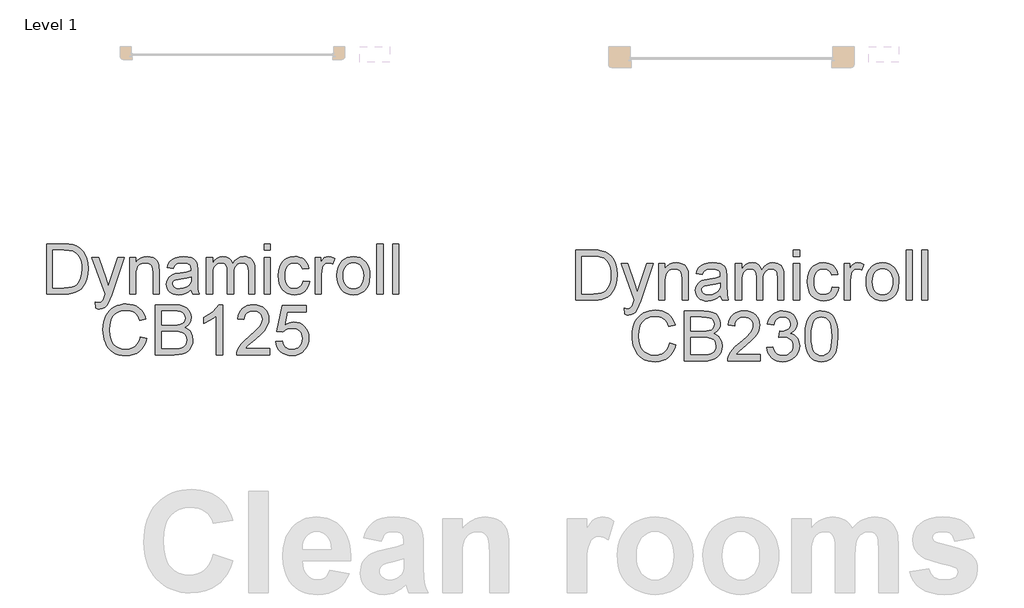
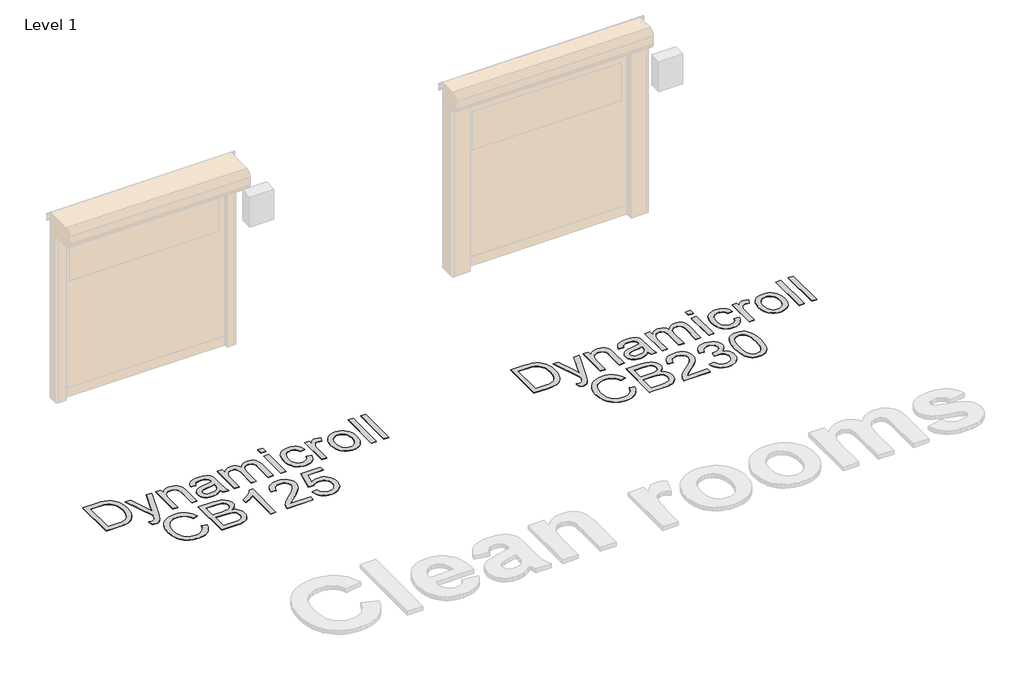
# One storey, part 15 of 17: 2 proxies.
"""IFC4 building model written with IfcOpenShell, lengths in millimetres."""

import ifcopenshell
import ifcopenshell.guid

model = None  # the IFC model being written
_history = None  # IfcOwnerHistory: only IFC2X3 demands one
_inside = {}  # id of a spatial element -> (the spatial element, [elements in it])
_under = {}  # id of a project, library or spatial element -> (it, [spatial elements below it])
_declared = {}  # id of a project -> (the project, [libraries it declares])
_typed = {}  # id of a type object -> (the type object, [elements of that type])
_made_of = {}  # id of a material, layer set ... -> (it, [elements and type objects made of it])


def new_model(schema):
    """Start an empty IFC model of exactly this schema.

    Asked for "IFC4X3", IfcOpenShell would pick the latest addendum, in which some entities
    have other attributes; the version numbers below select the first issue.
    IFC2X3 requires an IfcOwnerHistory on every rooted entity: one is made here for all.
    """
    global model, _history
    if schema == "IFC4X3":
        model = ifcopenshell.file(schema_version=(4, 3, 0, 0))
    else:
        model = ifcopenshell.file(schema=schema)
    _inside.clear()
    _under.clear()
    _declared.clear()
    _typed.clear()
    _made_of.clear()
    _history = None
    if model.schema == "IFC2X3":
        org = make("IfcOrganization", Name="unknown")
        user = make(
            "IfcPersonAndOrganization",
            ThePerson=make("IfcPerson", FamilyName="unknown"),
            TheOrganization=org,
        )
        app = make(
            "IfcApplication",
            ApplicationDeveloper=org,
            Version="unknown",
            ApplicationFullName="unknown",
            ApplicationIdentifier="unknown",
        )
        _history = make(
            "IfcOwnerHistory",
            OwningUser=user,
            OwningApplication=app,
            ChangeAction="ADDED",
            CreationDate=0,
        )
    return model


def make(cls, **values):
    """One entity of the class cls with the attributes given. An attribute that is None is left unset."""
    return model.create_entity(
        cls, **{name: value for name, value in values.items() if value is not None}
    )


def rooted(cls, **values):
    """An entity with a GlobalId (a new one), such as an element, a storey or a relation."""
    return make(cls, GlobalId=ifcopenshell.guid.new(), OwnerHistory=_history, **values)


def si_unit(unit_type, name, prefix=None):
    """IfcSIUnit, for example si_unit("LENGTHUNIT", "METRE", prefix="MILLI")."""
    return make("IfcSIUnit", UnitType=unit_type, Prefix=prefix, Name=name)


def assignment(units):
    """IfcUnitAssignment: the units of a project."""
    return None if units is None else make("IfcUnitAssignment", Units=units)


def point(xyz):
    """IfcCartesianPoint."""
    return None if xyz is None else make("IfcCartesianPoint", Coordinates=xyz)


def direction(xyz):
    """IfcDirection."""
    return None if xyz is None else make("IfcDirection", DirectionRatios=xyz)


def frame(location, z_axis=None, x_axis=None):
    """IfcAxis2Placement3D, a coordinate frame: its origin and axes. An axis left out is left unset."""
    return make(
        "IfcAxis2Placement3D",
        Location=point(location),
        Axis=direction(z_axis),
        RefDirection=direction(x_axis),
    )


def origin():
    """The frame at (0, 0, 0) with its axes left unset."""
    return frame((0.0, 0.0, 0.0))


def origin_with_axes():
    """The frame at (0, 0, 0) with the z axis (0, 0, 1) and the x axis (1, 0, 0) written out."""
    return frame((0.0, 0.0, 0.0), z_axis=(0.0, 0.0, 1.0), x_axis=(1.0, 0.0, 0.0))


def place(relative_to, where):
    """IfcLocalPlacement: puts the frame where relative to a parent placement (None: the world)."""
    return make(
        "IfcLocalPlacement", PlacementRelTo=relative_to, RelativePlacement=where
    )


def context(
    kind, dimensions, precision=None, world=None, true_north=None, identifier=None
):
    """IfcGeometricRepresentationContext, for example the 3D "Model" context."""
    return make(
        "IfcGeometricRepresentationContext",
        ContextIdentifier=identifier,
        ContextType=kind,
        CoordinateSpaceDimension=dimensions,
        Precision=precision,
        WorldCoordinateSystem=world,
        TrueNorth=true_north,
    )


def project(units=None, contexts=None):
    """IfcProject with its units and contexts."""
    return rooted(
        "IfcProject",
        Name="project",
        RepresentationContexts=contexts,
        UnitsInContext=assignment(units),
    )


def spatial(cls, under=None, at=None, **own):
    """A site, building, storey or space (cls), placed at a placement, below another one or the project."""
    s = rooted(cls, ObjectPlacement=at, **own)
    if under is not None:
        _under.setdefault(under.id(), (under, []))[1].append(s)
    return s


def polyline(points):
    """IfcPolyline through the points."""
    return make("IfcPolyline", Points=[point(p) for p in points])


def outline(outer, holes=None, kind="AREA"):
    """IfcArbitraryClosedProfileDef: a profile drawn as a closed curve; with holes, ...WithVoids."""
    if holes is None:
        return make("IfcArbitraryClosedProfileDef", ProfileType=kind, OuterCurve=outer)
    return make(
        "IfcArbitraryProfileDefWithVoids",
        ProfileType=kind,
        OuterCurve=outer,
        InnerCurves=holes,
    )


def extrude(swept, where, along, depth):
    """IfcExtrudedAreaSolid: the profile swept, set in the frame where, extruded along a direction by depth."""
    return make(
        "IfcExtrudedAreaSolid",
        SweptArea=swept,
        Position=where,
        ExtrudedDirection=direction(along),
        Depth=depth,
    )


def shape(context_of_items, identifier, shape_type, items):
    """IfcShapeRepresentation: the items that make up one representation, for example the "Body"."""
    return make(
        "IfcShapeRepresentation",
        ContextOfItems=context_of_items,
        RepresentationIdentifier=identifier,
        RepresentationType=shape_type,
        Items=items,
    )


def made_of(thing, what):
    """Note that an element or type object is made of a material, layer set ...; save() writes the relation."""
    if what is not None:
        _made_of.setdefault(what.id(), (what, []))[1].append(thing)
    return thing


def element(
    cls,
    number,
    at=None,
    inside=None,
    cuts=None,
    type_object=None,
    material=None,
    context=None,
    identifier="Body",
    shape_type=None,
    held_by="IfcProductDefinitionShape",
    body=None,
    shapes=None,
    **own,
):
    """One element of the class cls, such as IfcWall. Its Tag is "e" and its number.

    at: its placement. inside: the storey or other place that contains it. cuts: it is an
    opening in that element (IfcRelVoidsElement). A single representation is given by context,
    identifier, shape_type and body (its items); several are given by shapes. held_by: the class
    of the entity that holds the representations. save() writes the other relations.
    """
    e = rooted(cls, Tag="e%d" % number, ObjectPlacement=at, **own)
    if body is not None:
        shapes = [shape(context, identifier, shape_type, body)]
    if shapes is not None:
        e.Representation = make(held_by, Representations=shapes)
    if inside is not None:
        _inside.setdefault(inside.id(), (inside, []))[1].append(e)
    if cuts is not None:
        rooted(
            "IfcRelVoidsElement", RelatingBuildingElement=cuts, RelatedOpeningElement=e
        )
    if type_object is not None:
        _typed.setdefault(type_object.id(), (type_object, []))[1].append(e)
    return made_of(e, material)


def aggregate(whole, parts):
    """IfcRelAggregates: a whole, such as a stair, and the parts it consists of."""
    return rooted("IfcRelAggregates", RelatingObject=whole, RelatedObjects=parts)


def save(model, path):
    """Write the relations noted so far, then the file.

    IfcRelAggregates (storeys below a building ...), IfcRelContainedInSpatialStructure (elements
    in a storey), IfcRelDefinesByType, IfcRelAssociatesMaterial and IfcRelDeclares: one each for
    every whole, place, type object, material and project.
    """
    for whole, parts in _under.values():
        aggregate(whole, parts)
    for where, things in _inside.values():
        rooted(
            "IfcRelContainedInSpatialStructure",
            RelatedElements=things,
            RelatingStructure=where,
        )
    for kind, things in _typed.values():
        rooted("IfcRelDefinesByType", RelatedObjects=things, RelatingType=kind)
    for what, things in _made_of.values():
        rooted("IfcRelAssociatesMaterial", RelatedObjects=things, RelatingMaterial=what)
    for by, libraries in _declared.values():
        rooted("IfcRelDeclares", RelatingContext=by, RelatedDefinitions=libraries)
    model.write(path)


model = new_model("IFC4")

# Units and contexts
model_context = context("Model", 3, world=origin())
ifc_project = project(units=[si_unit("LENGTHUNIT", "METRE", prefix="MILLI")], contexts=[model_context])

# Site, building, storey
site = spatial("IfcSite", under=ifc_project)
building = spatial("IfcBuilding", under=site)
storey = spatial("IfcBuildingStorey", under=building, Name="Level 1", Elevation=0.0)

# Proxies
placement = place(None, origin())
element("IfcBuildingElementProxy", 1, Name="500mm", ObjectType="500mm", at=placement, inside=storey, context=model_context, shape_type="SweptSolid", body=[
    extrude(outline(polyline([(-367.2785937, 53537.1526628), (-367.2785937, 54039.4342136), (-194.006174, 54039.4342136), (-142.2267831, 54037.6254604), (-104.3655945, 54032.199201), (-64.3277707, 54018.250342), (-30.5439408, 53996.2693928), (-11.927579, 53978.3044887), (4.1902509, 53958.0096653), (17.809549, 53935.3849226), (28.9303151, 53910.4302606), (43.7375654, 53854.4508837), (48.6733155, 53790.9912395), (45.3317207, 53737.0811988), (35.3069364, 53689.6397498), (20.0398336, 53649.2493724), (0.9712835, 53616.4925464), (-20.9790089, 53590.6335079), (-44.8913386, 53570.9364927), (-72.3445325, 53556.3285118), (-104.9174175, 53545.736576), (-142.6713072, 53539.2986411), (-185.6675154, 53537.1526628), (-367.2785937, 53537.1526628)]), holes=[polyline([(-304.4933998, 53599.9378567), (-193.3930373, 53599.9378567), (-147.4384447, 53602.2064623), (-112.5816257, 53609.0122792), (-86.278063, 53619.9567686), (-65.9832396, 53634.6413915), (-44.170903, 53661.8186739), (-27.7848258, 53696.9973897), (-17.5301152, 53740.3308231), (-14.1118783, 53791.9722581), (-15.7865078, 53828.4232325), (-20.8103963, 53860.3983092), (-29.1835438, 53887.8974884), (-40.9059503, 53910.9207699), (-55.027254, 53929.98932), (-70.597093, 53945.6243048), (-87.6154674, 53957.8257243), (-106.0823771, 53966.5935785), (-142.1961263, 53974.1351594), (-195.1098199, 53976.6490197), (-304.4933998, 53976.6490197), (-304.4933998, 53599.9378567)])]), origin_with_axes(), (0.0, 0.0, 1.0), 5.0),
    extrude(outline(polyline([(127.1548078, 53395.8859767), (119.3066586, 53456.3412512), (151.1897649, 53450.8230213), (167.9590525, 53452.5551323), (180.9882065, 53457.7514655), (191.1356182, 53466.0441388), (199.2596789, 53477.0652703), (216.4275053, 53523.2957743), (221.3325986, 53538.5015635), (87.9140617, 53906.0156766), (154.1328208, 53906.0156766), (224.8887912, 53701.2280327), (249.5368849, 53619.3129751), (274.1849786, 53691.6631008), (346.9029863, 53906.0156766), (412.6312361, 53906.0156766), (284.2404198, 53528.3234949), (250.8857855, 53446.4084373), (233.8099296, 53420.2581588), (214.465468, 53402.1399706), (191.9940095, 53391.5633632), (165.5371627, 53388.0378274), (147.3576607, 53389.9998647), (127.1548078, 53395.8859767)])), origin_with_axes(), (0.0, 0.0, 1.0), 5.0),
    extrude(outline(polyline([(464.6252247, 53537.1526628), (464.6252247, 53906.0156766), (527.4104186, 53906.0156766), (527.4104186, 53854.5121973), (549.2227552, 53880.4785348), (575.419019, 53899.0259187), (605.9992098, 53910.1543491), (640.9633278, 53913.8638259), (671.9114006, 53910.8747847), (700.2536427, 53901.907661), (723.8900608, 53888.0814294), (740.7206621, 53870.5150641), (752.1403324, 53849.2545505), (759.5439575, 53824.3458737), (762.8548955, 53763.6453445), (762.8548955, 53537.1526628), (700.0697017, 53537.1526628), (700.0697017, 53755.1840586), (698.2609485, 53787.6496447), (692.8346891, 53810.7342399), (682.8252331, 53827.2736013), (667.2668904, 53840.1034858), (647.3246206, 53848.3348455), (624.1633833, 53851.078632), (605.0986653, 53849.5381262), (587.3905122, 53844.9166086), (571.038924, 53837.2140793), (556.0439005, 53826.4305384), (543.5167522, 53811.3397123), (534.5687891, 53790.715328), (529.2000112, 53764.5573853), (527.4104186, 53732.8658842), (527.4104186, 53537.1526628), (464.6252247, 53537.1526628)])), origin_with_axes(), (0.0, 0.0, 1.0), 5.0),
    extrude(outline(polyline([(1084.6290139, 53584.2415582), (1054.6313029, 53558.5204754), (1023.7445437, 53541.6898741), (991.2636293, 53532.4008537), (956.4834523, 53529.3045136), (928.5282528, 53531.1669162), (904.0142827, 53536.754124), (882.9415422, 53546.066137), (865.3100312, 53559.1029552), (851.3879969, 53575.0368441), (841.4436867, 53593.0400692), (835.4771006, 53613.1126306), (833.4882386, 53635.2545282), (836.4926082, 53661.2821794), (845.5057171, 53684.9185975), (859.4085908, 53705.1521073), (877.082255, 53720.9710331), (897.8522593, 53732.9271979), (921.0441534, 53741.5724248), (975.3680614, 53751.0147293), (1039.5634695, 53760.9475432), (1084.261132, 53772.5971397), (1084.6290139, 53786.5766555), (1080.3064005, 53814.5970008), (1067.3385602, 53832.9297869), (1054.2634209, 53840.8699067), (1038.3371962, 53846.5414208), (997.9314904, 53851.078632), (960.5301542, 53848.058934), (934.4105326, 53838.9998399), (916.5989127, 53822.2458807), (904.1215816, 53796.1415874), (841.3363878, 53803.9897366), (852.2348919, 53838.3253895), (868.4983418, 53865.3034025), (891.6442506, 53885.9354511), (923.1901317, 53901.2332107), (961.771756, 53910.7061721), (1006.0248943, 53913.8638259), (1048.4692795, 53911.0740541), (1082.1151536, 53902.7047387), (1107.4836829, 53890.1201088), (1125.0960334, 53874.6843934), (1136.7762868, 53855.6005149), (1144.3485245, 53832.0713956), (1147.4142078, 53777.134351), (1147.4142078, 53699.0207407), (1150.6025184, 53589.9437291), (1155.3236707, 53562.9810446), (1163.1105063, 53537.1526628), (1100.3253124, 53537.1526628), (1090.2698712, 53558.9803279), (1084.6290139, 53584.2415582)]), holes=[polyline([(1084.6290139, 53709.8119459), (1042.4452118, 53699.3579659), (983.3388379, 53690.5594548), (929.3214983, 53680.3813863), (915.2653404, 53673.4222852), (904.8573456, 53663.8266965), (898.4194107, 53652.3303841), (896.2734324, 53639.6691121), (900.9485994, 53620.9991009), (914.9741005, 53605.7013412), (938.0433673, 53595.4926159), (969.8498315, 53592.0897074), (1003.5723477, 53595.8451695), (1033.3707893, 53607.1115556), (1057.5283736, 53623.7122306), (1074.3283181, 53643.4705594), (1081.7779285, 53663.8266965), (1084.261132, 53692.0309828), (1084.6290139, 53709.8119459)])]), origin_with_axes(), (0.0, 0.0, 1.0), 5.0),
    extrude(outline(polyline([(1233.7438493, 53537.1526628), (1233.7438493, 53906.0156766), (1296.5290432, 53906.0156766), (1296.5290432, 53845.3151474), (1315.4136523, 53873.197537), (1339.6938639, 53895.0405305), (1368.5419437, 53909.158002), (1401.1301571, 53913.8638259), (1436.0482898, 53909.0660315), (1464.0379783, 53894.6726485), (1484.9459384, 53871.6340385), (1498.6188859, 53840.9005635), (1521.5042116, 53872.8219908), (1547.6085049, 53895.6230103), (1576.9317656, 53909.303622), (1609.4739937, 53913.8638259), (1634.6087646, 53911.9669343), (1656.670188, 53906.2762597), (1675.6582639, 53896.791802), (1691.5729923, 53883.5135613), (1704.1537901, 53866.2882533), (1713.1400743, 53844.9625939), (1718.5318448, 53819.536583), (1720.3291016, 53790.0102208), (1720.3291016, 53537.1526628), (1657.5439078, 53537.1526628), (1657.5439078, 53763.0322079), (1656.0877082, 53794.3481627), (1651.7191095, 53815.4553922), (1643.5337351, 53829.9100889), (1630.6272085, 53841.2684455), (1614.0265334, 53848.6260854), (1594.7587139, 53851.078632), (1576.9662545, 53849.5074693), (1560.7449578, 53844.7939813), (1546.0948238, 53836.9381678), (1533.0158524, 53825.940029), (1522.2591361, 53811.4776681), (1514.5757674, 53793.2291883), (1509.9657461, 53771.1945896), (1508.4290724, 53745.3738721), (1508.4290724, 53537.1526628), (1445.6438785, 53537.1526628), (1445.6438785, 53770.0219658), (1442.0110438, 53805.5225783), (1431.1125397, 53830.8451223), (1422.6857428, 53839.6972828), (1411.9366907, 53846.0202546), (1383.4718214, 53851.078632), (1359.2835802, 53847.7063804), (1336.9960626, 53837.5896255), (1318.6019629, 53820.9736221), (1306.093975, 53798.1036247), (1298.9202761, 53766.3738026), (1296.5290432, 53723.178325), (1296.5290432, 53537.1526628), (1233.7438493, 53537.1526628)])), origin_with_axes(), (0.0, 0.0, 1.0), 5.0),
    extrude(outline(polyline([(1814.5068924, 53976.6490197), (1814.5068924, 54039.4342136), (1877.2920862, 54039.4342136), (1877.2920862, 53976.6490197), (1814.5068924, 53976.6490197)])), origin_with_axes(), (0.0, 0.0, 1.0), 5.0),
    extrude(outline(polyline([(1814.5068924, 53537.1526628), (1814.5068924, 53906.0156766), (1877.2920862, 53906.0156766), (1877.2920862, 53537.1526628), (1814.5068924, 53537.1526628)])), origin_with_axes(), (0.0, 0.0, 1.0), 5.0),
    extrude(outline(polyline([(2206.9143539, 53670.5711997), (2269.6995477, 53662.7230505), (2262.8707382, 53633.0970536), (2252.1944961, 53606.8816293), (2237.6708215, 53584.0767777), (2219.2997144, 53564.6824988), (2197.8552598, 53549.2046303), (2174.1115427, 53538.1490099), (2148.0685631, 53531.5156377), (2119.726321, 53529.3045136), (2084.5131163, 53532.3893574), (2052.9404105, 53541.6438888), (2025.0082036, 53557.0681079), (2000.7164956, 53578.6620146), (1981.0539694, 53606.0194059), (1967.0093078, 53638.7340787), (1958.5825108, 53676.8060331), (1955.7735785, 53720.2352691), (1960.5713729, 53776.1073471), (1974.9647559, 53824.5298147), (1985.8172748, 53845.4799279), (1999.183654, 53863.6326051), (2015.0638934, 53878.9878463), (2033.4579932, 53891.5456515), (2074.4615072, 53908.2842823), (2118.8679297, 53913.8638259), (2146.7234945, 53911.9477738), (2171.9195791, 53906.1996176), (2194.4561834, 53896.6193574), (2214.3333075, 53883.2069929), (2231.2137261, 53866.2690927), (2244.7602142, 53846.1122251), (2254.9727716, 53822.73639), (2261.8513985, 53796.1415874), (2199.0662047, 53788.2934382), (2187.6771912, 53815.6853184), (2169.9422134, 53835.3210199), (2146.8422898, 53847.139229), (2119.358439, 53851.078632), (2098.0251154, 53849.1395873), (2078.7841207, 53843.3224533), (2061.6354547, 53833.6272299), (2046.5791177, 53820.0539171), (2034.3202166, 53802.2882824), (2025.5638587, 53780.0160933), (2020.310044, 53753.2373497), (2018.5587724, 53721.9520517), (2020.2717229, 53690.1954049), (2025.4105745, 53663.1062609), (2033.9753272, 53640.6846197), (2045.965981, 53622.9304814), (2060.723414, 53609.4376428), (2077.5885042, 53599.7999009), (2096.5612517, 53594.0172558), (2117.6416564, 53592.0897074), (2150.1532277, 53596.9028302), (2176.809344, 53611.3421985), (2187.5890528, 53622.2636952), (2196.1997908, 53635.7756944), (2206.9143539, 53670.5711997)])), origin_with_axes(), (0.0, 0.0, 1.0), 5.0),
    extrude(outline(polyline([(2324.6365924, 53537.1526628), (2324.6365924, 53906.0156766), (2379.573637, 53906.0156766), (2379.573637, 53851.446514), (2399.8684604, 53883.0843656), (2418.5691285, 53901.72372), (2437.3311102, 53910.8287994), (2457.8098746, 53913.8638259), (2489.0798442, 53909.0200463), (2520.8403231, 53894.4887075), (2499.8710494, 53838.2027622), (2477.7981297, 53847.8596646), (2455.72521, 53851.078632), (2436.9785566, 53847.9822919), (2420.2245974, 53838.6932715), (2406.6896057, 53823.9166781), (2397.5998547, 53804.3576186), (2389.9663033, 53769.2862018), (2387.4217862, 53731.0264743), (2387.4217862, 53537.1526628), (2324.6365924, 53537.1526628)])), origin_with_axes(), (0.0, 0.0, 1.0), 5.0),
    extrude(outline(polyline([(2544.3847708, 53721.5841697), (2547.7800151, 53769.3551796), (2557.9657478, 53810.5196421), (2574.941969, 53845.077557), (2598.7086788, 53873.0289244), (2622.6363369, 53890.8941938), (2649.0471984, 53903.6551005), (2677.9412635, 53911.3116445), (2709.318532, 53913.8638259), (2743.9569211, 53910.7559894), (2775.276708, 53901.4324801), (2803.2778928, 53885.8932979), (2827.9604754, 53864.1384429), (2848.1058468, 53836.9036789), (2862.4953977, 53804.9247701), (2871.1291283, 53768.2017163), (2874.0070385, 53726.7345177), (2868.9180042, 53663.3055303), (2862.5567114, 53637.270215), (2853.6509014, 53615.0210185), (2842.3117053, 53595.8030163), (2828.6502542, 53578.861284), (2812.6665479, 53564.1958216), (2794.3605865, 53551.806629), (2753.632984, 53534.9300424), (2709.318532, 53529.3045136), (2674.1743051, 53532.4008537), (2642.5632783, 53541.6898741), (2614.4854514, 53557.1715747), (2589.9408245, 53578.8459556), (2570.010051, 53606.3451347), (2555.7737842, 53639.3012301), (2547.2320242, 53677.7142418), (2544.3847708, 53721.5841697)]), holes=[polyline([(2607.1699647, 53721.7067971), (2608.986382, 53691.2530656), (2614.4356341, 53664.8843572), (2623.5177208, 53642.6006718), (2636.2326423, 53624.4020093), (2651.6990145, 53610.2653773), (2669.0354535, 53600.1677829), (2688.2419593, 53594.1092263), (2709.318532, 53592.0897074), (2730.2878057, 53594.1207226), (2749.4176695, 53600.2137682), (2766.7081232, 53610.3688441), (2782.159167, 53624.5859503), (2794.8740885, 53642.9647217), (2803.9561752, 53665.6047928), (2809.4054273, 53692.5061637), (2811.2218446, 53723.6688344), (2809.393931, 53753.1568755), (2803.91019, 53778.8358052), (2794.7706217, 53800.7056234), (2781.975226, 53818.7663301), (2766.4667007, 53832.9029622), (2749.1877432, 53843.0005566), (2730.1383536, 53849.0591132), (2709.318532, 53851.078632), (2688.2419593, 53849.0667774), (2669.0354535, 53843.0312134), (2651.6990145, 53832.9719401), (2636.2326423, 53818.8889575), (2623.5177208, 53800.7439445), (2614.4356341, 53778.4985801), (2608.986382, 53752.1528643), (2607.1699647, 53721.7067971)])]), origin_with_axes(), (0.0, 0.0, 1.0), 5.0),
    extrude(outline(polyline([(2944.6403816, 53537.1526628), (2944.6403816, 54039.4342136), (3007.4255754, 54039.4342136), (3007.4255754, 53537.1526628), (2944.6403816, 53537.1526628)])), origin_with_axes(), (0.0, 0.0, 1.0), 5.0),
    extrude(outline(polyline([(3101.6033662, 53537.1526628), (3101.6033662, 54039.4342136), (3164.38856, 54039.4342136), (3164.38856, 53537.1526628), (3101.6033662, 53537.1526628)])), origin_with_axes(), (0.0, 0.0, 1.0), 5.0),
    extrude(outline(polyline([(574.499314, 53105.8239686), (637.2845078, 53089.6371608), (624.8608263, 53050.591852), (608.3138007, 53016.474629), (587.6434311, 52987.2854919), (562.8497175, 52963.0244408), (534.492147, 52943.9520586), (503.1302069, 52930.3289285), (468.7638972, 52922.1550504), (431.3932178, 52919.4304244), (393.1066656, 52921.4920964), (358.5679112, 52927.6771124), (327.7769546, 52937.9854725), (300.7337959, 52952.4171766), (277.0667209, 52970.7576269), (256.4040155, 52992.7922256), (238.7456797, 53018.5209726), (224.0917136, 53047.943868), (212.5839049, 53079.7886532), (204.3640416, 53112.7830697), (199.4321236, 53146.9271173), (197.7881509, 53182.2207962), (199.6467214, 53220.0896491), (205.2224329, 53255.4599701), (214.5152854, 53288.3317592), (227.5252789, 53318.7050165), (243.9611734, 53346.0777362), (263.5317291, 53369.9479127), (286.236946, 53390.3155461), (312.0768241, 53407.1806363), (340.1738115, 53420.4052276), (369.6503563, 53429.8513642), (400.5064587, 53435.5190462), (432.7421185, 53437.4082736), (468.6527662, 53434.9633911), (501.5820368, 53427.6287439), (531.5299305, 53415.4043317), (558.4964472, 53398.2901547), (582.0370628, 53376.7384012), (601.7072532, 53351.2012594), (617.5070185, 53321.6787293), (629.4363586, 53288.1708109), (566.6511647, 53273.2102764), (556.7643361, 53297.9005232), (544.8848134, 53318.9962564), (531.0125965, 53336.4974759), (515.1476854, 53350.4041817), (497.1981097, 53360.9999496), (477.0718989, 53368.5683552), (454.769053, 53373.1093986), (430.2895719, 53374.6230797), (402.1236066, 53372.9446181), (376.3642027, 53367.9092333), (353.0113602, 53359.5169253), (332.0650791, 53347.7676941), (313.7897746, 53333.19037), (298.4498618, 53316.3137835), (286.0453408, 53297.1379345), (276.5762115, 53275.662823), (264.5740615, 53229.7082305), (260.5733448, 53182.3434236), (265.3098254, 53124.3406957), (279.5192675, 53074.186117), (290.3104727, 53052.5308966), (303.7381655, 53033.7957396), (319.802346, 53017.9806459), (338.5030141, 53005.0856156), (380.1809784, 52987.9331175), (425.1392239, 52982.2156182), (452.4353016, 52984.1623271), (477.5470798, 52990.0024538), (500.4745588, 52999.7359982), (521.2177383, 53013.3629605), (539.2861092, 53030.8220268), (554.1891622, 53052.0518836), (565.9268971, 53077.0525309), (574.499314, 53105.8239686)])), origin_with_axes(), (0.0, 0.0, 1.0), 5.0),
    extrude(outline(polyline([(723.6141493, 52927.2785736), (723.6141493, 53429.5601243), (915.2806688, 53429.5601243), (967.9950931, 53425.865976), (1009.1518913, 53414.7835309), (1040.6977724, 53396.0368775), (1064.5794452, 53369.3501045), (1079.6166218, 53337.9575075), (1084.6290139, 53305.0933826), (1080.4136994, 53274.8504169), (1067.7677558, 53246.4162044), (1046.5992127, 53221.5381845), (1016.8160995, 53201.9637967), (1035.7658544, 53193.8857212), (1052.3933541, 53183.3857559), (1066.6985988, 53170.4639008), (1078.6815884, 53155.1201559), (1094.9143814, 53119.0370636), (1100.3253124, 53077.0065456), (1096.631164, 53041.981114), (1085.5487189, 53009.5001995), (1069.0093576, 52981.878393), (1048.9444604, 52961.4302855), (1024.3730088, 52946.6230352), (994.3139841, 52935.9238005), (957.7863677, 52929.4398803), (913.8091409, 52927.2785736), (723.6141493, 52927.2785736)]), holes=[polyline([(786.3993432, 53225.5082443), (901.0558984, 53225.5082443), (941.1550358, 53226.857145), (968.0104215, 53230.9038469), (991.4475703, 53240.2081957), (1008.2934999, 53254.1417263), (1018.4562401, 53272.4898408), (1021.8438201, 53295.0379414), (1018.6861663, 53316.9269201), (1009.2132049, 53335.9954702), (993.8541316, 53350.8793626), (973.0381421, 53360.2143682), (941.0937222, 53365.1347899), (892.3493578, 53366.7749305), (786.3993432, 53366.7749305), (786.3993432, 53225.5082443)]), polyline([(786.3993432, 52990.0637674), (915.1580415, 52990.0637674), (961.7564276, 52992.5163141), (983.3848232, 52997.9579019), (1001.1811147, 53006.1892616), (1015.6511399, 53017.9768138), (1027.3007364, 53034.0869795), (1034.980273, 53053.7993231), (1037.5401186, 53076.393409), (1034.5357489, 53102.635658), (1025.5226401, 53125.199087), (1009.7803563, 53142.8420943), (986.5884622, 53154.3230783), (953.7396657, 53160.6230574), (909.0266749, 53162.7230505), (786.3993432, 53162.7230505), (786.3993432, 52990.0637674)])]), origin_with_axes(), (0.0, 0.0, 1.0), 5.0),
    extrude(outline(polyline([(1398.5549832, 52927.2785736), (1335.7697893, 52927.2785736), (1335.7697893, 53318.7050165), (1309.5581972, 53297.5058165), (1276.2955334, 53276.3372733), (1210.1994016, 53244.6381081), (1210.1994016, 53303.9897366), (1259.5109174, 53330.8144655), (1302.2312141, 53362.7282285), (1335.9077451, 53396.6653426), (1358.0879637, 53429.5601243), (1398.5549832, 53429.5601243), (1398.5549832, 52927.2785736)])), origin_with_axes(), (0.0, 0.0, 1.0), 5.0),
    extrude(outline(polyline([(1869.443937, 52990.0637674), (1869.443937, 52927.2785736), (1539.8216693, 52927.2785736), (1541.2012268, 52949.3821501), (1546.5661726, 52970.5660217), (1562.0478732, 53004.3958368), (1584.7032727, 53037.2139765), (1617.4754271, 53071.5649578), (1663.3073924, 53109.9932979), (1731.0589931, 53170.1726609), (1771.7099536, 53214.5944118), (1792.0354338, 53250.6468473), (1797.1168039, 53268.3051831), (1798.8105939, 53285.7182642), (1797.2126065, 53302.1005093), (1792.4186443, 53317.1568464), (1784.4287072, 53330.8872754), (1773.2427953, 53343.2917965), (1759.4817094, 53353.5656676), (1743.7662504, 53360.904147), (1726.0964183, 53365.3072346), (1706.4722131, 53366.7749305), (1667.3081091, 53361.0421027), (1651.002506, 53353.876068), (1636.8812024, 53343.8436195), (1625.4577, 53331.2819822), (1617.2455009, 53316.5283813), (1612.244605, 53299.5828169), (1610.4550124, 53280.445289), (1547.6698185, 53288.2934382), (1553.0692532, 53320.7053748), (1562.8909361, 53349.0246242), (1577.1348671, 53373.2511864), (1595.8010462, 53393.3850615), (1618.4602779, 53409.2116515), (1644.6833664, 53420.5163586), (1674.4703117, 53427.2991829), (1707.8211138, 53429.5601243), (1741.47082, 53427.046264), (1771.4187137, 53419.5046831), (1797.6647948, 53406.9353816), (1820.2090633, 53389.3383595), (1838.3157553, 53368.0165322), (1851.2491066, 53344.2728151), (1859.0091175, 53318.1072082), (1861.5957878, 53289.5197115), (1858.806016, 53259.4913436), (1850.4367006, 53229.984142), (1835.583465, 53199.9711025), (1813.3419327, 53168.4252214), (1777.8873054, 53130.7633022), (1723.3947849, 53082.4021482), (1651.1672865, 53022.0081873), (1622.8403729, 52990.0637674), (1869.443937, 52990.0637674)])), origin_with_axes(), (0.0, 0.0, 1.0), 5.0),
    extrude(outline(polyline([(1932.2291308, 53060.6971105), (1995.0143247, 53068.5452597), (2006.5412939, 53030.8526836), (2015.5237459, 53016.0186086), (2026.6521763, 53003.8593423), (2039.9035923, 52994.390213), (2055.2550014, 52987.6265492), (2092.2577987, 52982.2156182), (2116.1701284, 52984.0971813), (2137.2620295, 52989.7418707), (2155.5335019, 52999.1496863), (2170.9845457, 53012.3206281), (2183.2702715, 53028.6032385), (2192.0457899, 53047.3460598), (2197.311101, 53068.5490918), (2199.0662047, 53092.2123348), (2197.422232, 53114.5764944), (2192.490314, 53134.4574505), (2184.2704507, 53151.8552032), (2172.762642, 53166.7697524), (2157.928567, 53178.7335815), (2139.7299045, 53187.2791737), (2118.1666547, 53192.406529), (2093.2388174, 53194.1156474), (2062.7812539, 53191.3871893), (2038.1178318, 53183.2018149), (2018.4208166, 53170.6631702), (2002.8624739, 53154.8749013), (1940.0772801, 53162.7230505), (1995.0143247, 53421.7119751), (2238.3069508, 53421.7119751), (2238.3069508, 53358.9267813), (2045.78204, 53358.9267813), (2018.9266544, 53220.6031511), (2041.0838804, 53236.4833905), (2063.7776009, 53247.8264187), (2087.0078161, 53254.6322356), (2110.7745258, 53256.9008413), (2141.3508846, 53254.0880768), (2169.4363756, 53245.6497836), (2195.030999, 53231.5859615), (2218.1347548, 53211.8966105), (2237.2607864, 53187.7850114), (2250.9222376, 53160.4544449), (2259.1191083, 53129.9049108), (2261.8513985, 53096.1364094), (2259.3911877, 53063.6095096), (2252.0105551, 53033.3512155), (2239.7095009, 53005.3615271), (2222.488025, 52979.6404442), (2196.3990602, 52953.2985605), (2165.9568251, 52934.4829293), (2131.1613197, 52923.1935506), (2092.0125441, 52919.4304244), (2059.6121038, 52921.8484821), (2030.3463246, 52929.1026551), (2004.2152067, 52941.1929436), (1981.2187499, 52958.1193475), (1962.085054, 52979.0388039), (1947.5422189, 53003.1082498), (1937.5902445, 53030.3276854), (1932.2291308, 53060.6971105)])), origin_with_axes(), (0.0, 0.0, 1.0), 5.0),
])
element("IfcBuildingElementProxy", 2, Name="500mm", ObjectType="500mm", at=placement, inside=storey, context=model_context, shape_type="SweptSolid", body=[
    extrude(outline(polyline([(4936.8681152, 53476.3287441), (4936.8681152, 53978.6102948), (5110.1405349, 53978.6102948), (5161.9199257, 53976.8015417), (5199.7811144, 53971.3752822), (5239.8189382, 53957.4264233), (5273.6027681, 53935.445474), (5292.2191299, 53917.48057), (5308.3369598, 53897.1857465), (5321.9562578, 53874.5610038), (5333.077024, 53849.6063418), (5347.8842743, 53793.6269649), (5352.8200244, 53730.1673207), (5349.4784296, 53676.25728), (5339.4536452, 53628.8158311), (5324.1865424, 53588.4254537), (5305.1179924, 53555.6686277), (5283.1677, 53529.8095891), (5259.2553703, 53510.112574), (5231.8021764, 53495.5045931), (5199.2292914, 53484.9126573), (5161.4754017, 53478.4747224), (5118.4791935, 53476.3287441), (4936.8681152, 53476.3287441)]), holes=[polyline([(4999.653309, 53539.1139379), (5110.7536716, 53539.1139379), (5156.7082641, 53541.3825435), (5191.5650832, 53548.1883605), (5217.8686458, 53559.1328498), (5238.1634692, 53573.8174728), (5259.9758059, 53600.9947552), (5276.3618831, 53636.173471), (5286.6165937, 53679.5069043), (5290.0348306, 53731.1483394), (5288.3602011, 53767.5993137), (5283.3363126, 53799.5743905), (5274.9631651, 53827.0735696), (5263.2407586, 53850.0968512), (5249.1194549, 53869.1654013), (5233.5496159, 53884.800386), (5216.5312415, 53897.0018056), (5198.0643318, 53905.7696598), (5161.9505826, 53913.3112407), (5109.0368889, 53915.825101), (4999.653309, 53915.825101), (4999.653309, 53539.1139379)])]), origin_with_axes(), (0.0, 0.0, 1.0), 5.0),
    extrude(outline(polyline([(5431.3015167, 53335.0620579), (5423.4533675, 53395.5173325), (5455.3364737, 53389.9991025), (5472.1057613, 53391.7312136), (5485.1349153, 53396.9275468), (5495.282327, 53405.2202201), (5503.4063878, 53416.2413515), (5520.5742142, 53462.4718556), (5525.4793075, 53477.6776447), (5392.0607706, 53845.1917579), (5458.2795297, 53845.1917579), (5529.0355001, 53640.4041139), (5553.6835938, 53558.4890563), (5578.3316874, 53630.839182), (5651.0496952, 53845.1917579), (5716.777945, 53845.1917579), (5588.3871286, 53467.4995762), (5555.0324944, 53385.5845186), (5537.9566385, 53359.4342401), (5518.6121769, 53341.3160518), (5496.1407184, 53330.7394445), (5469.6838715, 53327.2139087), (5451.5043696, 53329.175946), (5431.3015167, 53335.0620579)])), origin_with_axes(), (0.0, 0.0, 1.0), 5.0),
    extrude(outline(polyline([(5768.7719336, 53476.3287441), (5768.7719336, 53845.1917579), (5831.5571275, 53845.1917579), (5831.5571275, 53793.6882786), (5853.3694641, 53819.6546161), (5879.5657278, 53838.202), (5910.1459187, 53849.3304303), (5945.1100366, 53853.0399071), (5976.0581095, 53850.0508659), (6004.4003515, 53841.0837423), (6028.0367697, 53827.2575106), (6044.867371, 53809.6911454), (6056.2870413, 53788.4306317), (6063.6906664, 53763.521955), (6067.0016044, 53702.8214258), (6067.0016044, 53476.3287441), (6004.2164105, 53476.3287441), (6004.2164105, 53694.3601399), (6002.4076574, 53726.8257259), (5996.981398, 53749.9103211), (5986.971942, 53766.4496825), (5971.4135993, 53779.2795671), (5951.4713295, 53787.5109267), (5928.3100922, 53790.2547133), (5909.2453742, 53788.7142074), (5891.5372211, 53784.0926899), (5875.1856328, 53776.3901606), (5860.1906094, 53765.6066196), (5847.6634611, 53750.5157936), (5838.7154979, 53729.8914092), (5833.3467201, 53703.7334665), (5831.5571275, 53672.0419655), (5831.5571275, 53476.3287441), (5768.7719336, 53476.3287441)])), origin_with_axes(), (0.0, 0.0, 1.0), 5.0),
    extrude(outline(polyline([(6388.7757228, 53523.4176394), (6358.7780118, 53497.6965566), (6327.8912526, 53480.8659553), (6295.4103381, 53471.576935), (6260.6301612, 53468.4805948), (6232.6749616, 53470.3429974), (6208.1609916, 53475.9302052), (6187.0882511, 53485.2422182), (6169.45674, 53498.2790364), (6155.5347058, 53514.2129254), (6145.5903956, 53532.2161505), (6139.6238095, 53552.2887119), (6137.6349474, 53574.4306094), (6140.6393171, 53600.4582606), (6149.652426, 53624.0946788), (6163.5552997, 53644.3281885), (6181.2289639, 53660.1471143), (6201.9989682, 53672.1032792), (6225.1908623, 53680.7485061), (6279.5147703, 53690.1908106), (6343.7101784, 53700.1236245), (6388.4078408, 53711.773221), (6388.7757228, 53725.7527368), (6384.4531094, 53753.7730821), (6371.485269, 53772.1058682), (6358.4101298, 53780.0459879), (6342.4839051, 53785.717502), (6302.0781993, 53790.2547133), (6264.6768631, 53787.2350152), (6238.5572415, 53778.1759211), (6220.7456215, 53761.4219619), (6208.2682905, 53735.3176687), (6145.4830967, 53743.1658179), (6156.3816008, 53777.5014708), (6172.6450507, 53804.4794838), (6195.7909595, 53825.1115323), (6227.3368406, 53840.409292), (6265.9184648, 53849.8822533), (6310.1716032, 53853.0399071), (6352.6159884, 53850.2501353), (6386.2618625, 53841.8808199), (6411.6303918, 53829.29619), (6429.2427423, 53813.8604746), (6440.9229956, 53794.7765961), (6448.4952334, 53771.2474769), (6451.5609167, 53716.3104323), (6451.5609167, 53638.1968219), (6454.7492273, 53529.1198104), (6459.4703796, 53502.1571258), (6467.2572151, 53476.3287441), (6404.4720213, 53476.3287441), (6394.4165801, 53498.1564091), (6388.7757228, 53523.4176394)]), holes=[polyline([(6388.7757228, 53648.9880271), (6346.5919207, 53638.5340471), (6287.4855468, 53629.7355361), (6233.4682072, 53619.5574675), (6219.4120493, 53612.5983664), (6209.0040545, 53603.0027777), (6202.5661196, 53591.5064654), (6200.4201413, 53578.8451934), (6205.0953083, 53560.1751821), (6219.1208094, 53544.8774225), (6242.1900762, 53534.6686971), (6273.9965403, 53531.2657887), (6307.7190566, 53535.0212507), (6337.5174982, 53546.2876368), (6361.6750825, 53562.8883118), (6378.475027, 53582.6466407), (6385.9246374, 53603.0027777), (6388.4078408, 53631.207064), (6388.7757228, 53648.9880271)])]), origin_with_axes(), (0.0, 0.0, 1.0), 5.0),
    extrude(outline(polyline([(6537.8905582, 53476.3287441), (6537.8905582, 53845.1917579), (6600.675752, 53845.1917579), (6600.675752, 53784.4912287), (6619.5603611, 53812.3736182), (6643.8405728, 53834.2166117), (6672.6886526, 53848.3340833), (6705.276866, 53853.0399071), (6740.1949987, 53848.2421128), (6768.1846872, 53833.8487297), (6789.0926472, 53810.8101198), (6802.7655947, 53780.0766448), (6825.6509205, 53811.998072), (6851.7552138, 53834.7990915), (6881.0784745, 53848.4797032), (6913.6207026, 53853.0399071), (6938.7554735, 53851.1430156), (6960.8168969, 53845.452341), (6979.8049728, 53835.9678833), (6995.7197012, 53822.6896425), (7008.300499, 53805.4643345), (7017.2867832, 53784.1386751), (7022.6785537, 53758.7126643), (7024.4758105, 53729.1863021), (7024.4758105, 53476.3287441), (6961.6906166, 53476.3287441), (6961.6906166, 53702.2082891), (6960.2344171, 53733.5242439), (6955.8658184, 53754.6314734), (6947.680444, 53769.0861701), (6934.7739173, 53780.4445267), (6918.1732423, 53787.8021667), (6898.9054228, 53790.2547133), (6881.1129634, 53788.6835506), (6864.8916667, 53783.9700625), (6850.2415326, 53776.1142491), (6837.1625613, 53765.1161103), (6826.405845, 53750.6537493), (6818.7224763, 53732.4052695), (6814.112455, 53710.3706709), (6812.5757813, 53684.5499533), (6812.5757813, 53476.3287441), (6749.7905874, 53476.3287441), (6749.7905874, 53709.198047), (6746.1577527, 53744.6986595), (6735.2592486, 53770.0212036), (6726.8324517, 53778.8733641), (6716.0833996, 53785.1963359), (6687.6185302, 53790.2547133), (6663.4302891, 53786.8824617), (6641.1427715, 53776.7657068), (6622.7486718, 53760.1497033), (6610.2406839, 53737.279706), (6603.066985, 53705.5498839), (6600.675752, 53662.3544063), (6600.675752, 53476.3287441), (6537.8905582, 53476.3287441)])), origin_with_axes(), (0.0, 0.0, 1.0), 5.0),
    extrude(outline(polyline([(7118.6536013, 53915.825101), (7118.6536013, 53978.6102948), (7181.4387951, 53978.6102948), (7181.4387951, 53915.825101), (7118.6536013, 53915.825101)])), origin_with_axes(), (0.0, 0.0, 1.0), 5.0),
    extrude(outline(polyline([(7118.6536013, 53476.3287441), (7118.6536013, 53845.1917579), (7181.4387951, 53845.1917579), (7181.4387951, 53476.3287441), (7118.6536013, 53476.3287441)])), origin_with_axes(), (0.0, 0.0, 1.0), 5.0),
    extrude(outline(polyline([(7511.0610628, 53609.747281), (7573.8462566, 53601.8991318), (7567.0174471, 53572.2731348), (7556.341205, 53546.0577106), (7541.8175304, 53523.252859), (7523.4464233, 53503.85858), (7502.0019686, 53488.3807115), (7478.2582515, 53477.3250911), (7452.215272, 53470.6917189), (7423.8730299, 53468.4805948), (7388.6598252, 53471.5654387), (7357.0871194, 53480.8199701), (7329.1549125, 53496.2441892), (7304.8632045, 53517.8380959), (7285.2006783, 53545.1954871), (7271.1560167, 53577.91016), (7262.7292197, 53615.9821144), (7259.9202874, 53659.4113503), (7264.7180818, 53715.2834284), (7279.1114648, 53763.705896), (7289.9639837, 53784.6560092), (7303.3303628, 53802.8086864), (7319.2106023, 53818.1639276), (7337.604702, 53830.7217328), (7378.6082161, 53847.4603635), (7423.0146386, 53853.0399071), (7450.8702034, 53851.1238551), (7476.066288, 53845.3756989), (7498.6028923, 53835.7954386), (7518.4800163, 53822.3830742), (7535.360435, 53805.445174), (7548.906923, 53785.2883063), (7559.1194805, 53761.9124712), (7565.9981074, 53735.3176687), (7503.2129135, 53727.4695194), (7491.8239001, 53754.8613997), (7474.0889223, 53774.4971012), (7450.9889986, 53786.3153103), (7423.5051479, 53790.2547133), (7402.1718243, 53788.3156686), (7382.9308295, 53782.4985346), (7365.7821636, 53772.8033111), (7350.7258265, 53759.2299984), (7338.4669255, 53741.4643637), (7329.7105676, 53719.1921745), (7324.4567528, 53692.413431), (7322.7054812, 53661.128133), (7324.4184318, 53629.3714862), (7329.5572834, 53602.2823422), (7338.1220361, 53579.860701), (7350.1126899, 53562.1065626), (7364.8701228, 53548.613724), (7381.7352131, 53538.9759822), (7400.7079605, 53533.1933371), (7421.7883653, 53531.2657887), (7454.2999366, 53536.0789115), (7480.9560528, 53550.5182798), (7491.7357617, 53561.4397765), (7500.3464997, 53574.9517756), (7511.0610628, 53609.747281)])), origin_with_axes(), (0.0, 0.0, 1.0), 5.0),
    extrude(outline(polyline([(7628.7833012, 53476.3287441), (7628.7833012, 53845.1917579), (7683.7203458, 53845.1917579), (7683.7203458, 53790.6225953), (7704.0151692, 53822.2604469), (7722.7158373, 53840.8998013), (7741.4778191, 53850.0048807), (7761.9565835, 53853.0399071), (7793.2265531, 53848.1961275), (7824.987032, 53833.6647887), (7804.0177583, 53777.3788435), (7781.9448386, 53787.0357458), (7759.8719188, 53790.2547133), (7741.1252655, 53787.1583732), (7724.3713063, 53777.8693528), (7710.8363146, 53763.0927593), (7701.7465636, 53743.5336999), (7694.1130122, 53708.462283), (7691.5684951, 53670.2025555), (7691.5684951, 53476.3287441), (7628.7833012, 53476.3287441)])), origin_with_axes(), (0.0, 0.0, 1.0), 5.0),
    extrude(outline(polyline([(7848.5314797, 53660.760251), (7851.9267239, 53708.5312609), (7862.1124567, 53749.6957233), (7879.0886779, 53784.2536382), (7902.8553876, 53812.2050057), (7926.7830457, 53830.0702751), (7953.1939073, 53842.8311818), (7982.0879723, 53850.4877258), (8013.4652409, 53853.0399071), (8048.10363, 53849.9320707), (8079.4234169, 53840.6085614), (8107.4246017, 53825.0693792), (8132.1071843, 53803.3145241), (8152.2525556, 53776.0797602), (8166.6421066, 53744.1008513), (8175.2758372, 53707.3777976), (8178.1537474, 53665.9105989), (8173.0647131, 53602.4816116), (8166.7034203, 53576.4462962), (8157.7976103, 53554.1970997), (8146.4584142, 53534.9790976), (8132.796963, 53518.0373653), (8116.8132568, 53503.3719028), (8098.5072954, 53490.9827102), (8057.7796929, 53474.1061237), (8013.4652409, 53468.4805948), (7978.321014, 53471.576935), (7946.7099871, 53480.8659553), (7918.6321603, 53496.347656), (7894.0875334, 53518.0220369), (7874.1567599, 53545.521216), (7859.9204931, 53578.4773114), (7851.378733, 53616.8903231), (7848.5314797, 53660.760251)]), holes=[polyline([(7911.3166735, 53660.8828783), (7913.1330909, 53630.4291469), (7918.5823429, 53604.0604385), (7927.6644297, 53581.776753), (7940.3793511, 53563.5780906), (7955.8457234, 53549.4414585), (7973.1821624, 53539.3438642), (7992.3886682, 53533.2853075), (8013.4652409, 53531.2657887), (8034.4345146, 53533.2968039), (8053.5643783, 53539.3898494), (8070.8548321, 53549.5449253), (8086.3058759, 53563.7620316), (8099.0207974, 53582.1408029), (8108.1028841, 53604.780874), (8113.5521362, 53631.6822449), (8115.3685535, 53662.8449156), (8113.5406399, 53692.3329568), (8108.0568989, 53718.0118865), (8098.9173305, 53739.8817047), (8086.1219349, 53757.9424114), (8070.6134095, 53772.0790435), (8053.3344521, 53782.1766378), (8034.2850625, 53788.2351944), (8013.4652409, 53790.2547133), (7992.3886682, 53788.2428586), (7973.1821624, 53782.2072946), (7955.8457234, 53772.1480213), (7940.3793511, 53758.0650387), (7927.6644297, 53739.9200257), (7918.5823429, 53717.6746613), (7913.1330909, 53691.3289455), (7911.3166735, 53660.8828783)])]), origin_with_axes(), (0.0, 0.0, 1.0), 5.0),
    extrude(outline(polyline([(8248.7870904, 53476.3287441), (8248.7870904, 53978.6102948), (8311.5722843, 53978.6102948), (8311.5722843, 53476.3287441), (8248.7870904, 53476.3287441)])), origin_with_axes(), (0.0, 0.0, 1.0), 5.0),
    extrude(outline(polyline([(8405.750075, 53476.3287441), (8405.750075, 53978.6102948), (8468.5352689, 53978.6102948), (8468.5352689, 53476.3287441), (8405.750075, 53476.3287441)])), origin_with_axes(), (0.0, 0.0, 1.0), 5.0),
    extrude(outline(polyline([(5878.6460228, 53045.0000498), (5941.4312167, 53028.813242), (5929.0075351, 52989.7679332), (5912.4605096, 52955.6507103), (5891.79014, 52926.4615732), (5866.9964263, 52902.200522), (5838.6388559, 52883.1281399), (5807.2769158, 52869.5050097), (5772.9106061, 52861.3311316), (5735.5399267, 52858.6065056), (5697.2533745, 52860.6681776), (5662.7146201, 52866.8531937), (5631.9236635, 52877.1615537), (5604.8805048, 52891.5932578), (5581.2134297, 52909.9337081), (5560.5507243, 52931.9683068), (5542.8923886, 52957.6970539), (5528.2384224, 52987.1199493), (5516.7306138, 53018.9647345), (5508.5107504, 53051.9591509), (5503.5788324, 53086.1031986), (5501.9348598, 53121.3968775), (5503.7934303, 53159.2657304), (5509.3691418, 53194.6360514), (5518.6619943, 53227.5078405), (5531.6719877, 53257.8810977), (5548.1078823, 53285.2538174), (5567.678438, 53309.123994), (5590.3836549, 53329.4916273), (5616.223533, 53346.3567175), (5644.3205203, 53359.5813089), (5673.7970652, 53369.0274455), (5704.6531675, 53374.6951275), (5736.8888274, 53376.5843548), (5772.799475, 53374.1394724), (5805.7287457, 53366.8048251), (5835.6766394, 53354.580413), (5862.6431561, 53337.466236), (5886.1837716, 53315.9144824), (5905.8539621, 53290.3773406), (5921.6537273, 53260.8548105), (5933.5830675, 53227.3468921), (5870.7978736, 53212.3863576), (5860.911045, 53237.0766045), (5849.0315222, 53258.1723376), (5835.1593053, 53275.6735571), (5819.2943943, 53289.580263), (5801.3448186, 53300.1760308), (5781.2186078, 53307.7444365), (5758.9157618, 53312.2854799), (5734.4362807, 53313.799161), (5706.2703155, 53312.1206994), (5680.5109116, 53307.0853146), (5657.1580691, 53298.6930065), (5636.211788, 53286.9437753), (5617.9364835, 53272.3664513), (5602.5965707, 53255.4898647), (5590.1920497, 53236.3140157), (5580.7229204, 53214.8389043), (5568.7207703, 53168.8843117), (5564.7200536, 53121.5195048), (5569.4565343, 53063.5167769), (5583.6659764, 53013.3621982), (5594.4571816, 52991.7069779), (5607.8848744, 52972.9718209), (5623.9490548, 52957.1567272), (5642.6497229, 52944.2616968), (5684.3276873, 52927.1091988), (5729.2859328, 52921.3916995), (5756.5820104, 52923.3384083), (5781.6937887, 52929.178535), (5804.6212676, 52938.9120795), (5825.3644472, 52952.5390417), (5843.4328181, 52969.9981081), (5858.335871, 52991.2279649), (5870.0736059, 53016.2286121), (5878.6460228, 53045.0000498)])), origin_with_axes(), (0.0, 0.0, 1.0), 5.0),
    extrude(outline(polyline([(6027.7608582, 52866.4546548), (6027.7608582, 53368.7362056), (6219.4273777, 53368.7362056), (6272.1418019, 53365.0420572), (6313.2986001, 53353.9596121), (6344.8444812, 53335.2129588), (6368.7261541, 53308.5261857), (6383.7633306, 53277.1335888), (6388.7757228, 53244.2694639), (6384.5604083, 53214.0264982), (6371.9144647, 53185.5922857), (6350.7459216, 53160.7142657), (6320.9628084, 53141.1398779), (6339.9125632, 53133.0618024), (6356.540063, 53122.5618372), (6370.8453077, 53109.6399821), (6382.8282972, 53094.2962372), (6399.0610903, 53058.2131448), (6404.4720213, 53016.1826269), (6400.7778729, 52981.1571953), (6389.6954278, 52948.6762808), (6373.1560664, 52921.0544743), (6353.0911693, 52900.6063667), (6328.5197177, 52885.7991164), (6298.460693, 52875.0998817), (6261.9330766, 52868.6159616), (6217.9558497, 52866.4546548), (6027.7608582, 52866.4546548)]), holes=[polyline([(6090.5460521, 53164.6843256), (6205.2026072, 53164.6843256), (6245.3017447, 53166.0332262), (6272.1571304, 53170.0799282), (6295.5942791, 53179.384277), (6312.4402088, 53193.3178076), (6322.6029489, 53211.6659221), (6325.990529, 53234.2140227), (6322.8328752, 53256.1030014), (6313.3599138, 53275.1715515), (6298.0008405, 53290.0554439), (6277.184851, 53299.3904495), (6245.240431, 53304.3108712), (6196.4960667, 53305.9510117), (6090.5460521, 53305.9510117), (6090.5460521, 53164.6843256)]), polyline([(6090.5460521, 52929.2398487), (6219.3047504, 52929.2398487), (6265.9031364, 52931.6923953), (6287.5315321, 52937.1339832), (6305.3278236, 52945.3653428), (6319.7978487, 52957.1528951), (6331.4474452, 52973.2630608), (6339.1269819, 52992.9754043), (6341.6868274, 53015.5694902), (6338.6824578, 53041.8117392), (6329.6693489, 53064.3751682), (6313.9270652, 53082.0181756), (6290.7351711, 53093.4991595), (6257.8863746, 53099.7991387), (6213.1733838, 53101.8991318), (6090.5460521, 53101.8991318), (6090.5460521, 52929.2398487)])]), origin_with_axes(), (0.0, 0.0, 1.0), 5.0),
    extrude(outline(polyline([(6789.0313336, 52929.2398487), (6789.0313336, 52866.4546548), (6459.4090659, 52866.4546548), (6460.7886234, 52888.5582314), (6466.1535691, 52909.7421029), (6481.6352698, 52943.5719181), (6504.2906693, 52976.3900577), (6537.0628237, 53010.741039), (6582.8947889, 53049.1693791), (6650.6463897, 53109.3487422), (6691.2973502, 53153.7704931), (6711.6228304, 53189.8229286), (6716.7042005, 53207.4812644), (6718.3979905, 53224.8943455), (6716.8000031, 53241.2765906), (6712.0060408, 53256.3329276), (6704.0161038, 53270.0633567), (6692.8301918, 53282.4678777), (6679.069106, 53292.7417489), (6663.353647, 53300.0802282), (6645.6838149, 53304.4833159), (6626.0596097, 53305.9510117), (6586.8955056, 53300.218184), (6570.5899026, 53293.0521493), (6556.468599, 53283.0197007), (6545.0450966, 53270.4580634), (6536.8328975, 53255.7044626), (6531.8320016, 53238.7588982), (6530.042409, 53219.6213702), (6467.2572151, 53227.4695194), (6472.6566498, 53259.8814561), (6482.4783327, 53288.2007055), (6496.7222637, 53312.4272677), (6515.3884428, 53332.5611427), (6538.0476745, 53348.3877327), (6564.2707629, 53359.6924399), (6594.0577082, 53366.4752642), (6627.4085104, 53368.7362056), (6661.0582166, 53366.2223453), (6691.0061103, 53358.6807644), (6717.2521914, 53346.1114629), (6739.7964599, 53328.5144408), (6757.9031518, 53307.1926135), (6770.8365032, 53283.4488964), (6778.5965141, 53257.2832895), (6781.1831843, 53228.6957928), (6778.3934125, 53198.6674249), (6770.0240972, 53169.1602232), (6755.1708616, 53139.1471838), (6732.9293293, 53107.6013027), (6697.474702, 53069.9393834), (6642.9821815, 53021.5782295), (6570.7546831, 52961.1842686), (6542.4277695, 52929.2398487), (6789.0313336, 52929.2398487)])), origin_with_axes(), (0.0, 0.0, 1.0), 5.0),
    extrude(outline(polyline([(6851.8165274, 52999.8731918), (6914.6017213, 53007.721341), (6928.6578792, 52968.265997), (6938.1346726, 52953.3437836), (6949.2439425, 52941.6252092), (6962.2386075, 52932.7730487), (6977.3715867, 52926.4500769), (7014.0524873, 52921.3916995), (7036.7998573, 52923.1314747), (7057.0946807, 52928.3508005), (7074.9369575, 52937.0496769), (7090.3266876, 52949.2281038), (7102.7197123, 52963.9740404), (7111.5718728, 52980.375446), (7116.8831692, 52998.4323206), (7118.6536013, 53018.1446642), (7116.8984976, 53036.9181423), (7111.6331865, 53053.9978303), (7102.8576681, 53069.3837283), (7090.5719423, 53083.0758363), (7075.580751, 53094.3153977), (7058.688836, 53102.3436558), (7039.8961975, 53107.1606107), (7019.2028352, 53108.7662623), (6975.1796231, 53101.8991318), (6982.169381, 53164.6843256), (6992.2248222, 53163.9485616), (7029.8407563, 53168.455116), (7063.471302, 53181.9747794), (7077.312862, 53192.1988332), (7087.1996907, 53204.8447767), (7093.1317878, 53219.9126101), (7095.1091536, 53237.4023333), (7089.3763258, 53264.518302), (7072.1778425, 53286.5145797), (7045.9355935, 53301.0919037), (7013.0714686, 53305.9510117), (6980.1460301, 53301.0459185), (6953.2293308, 53286.3306387), (6942.3384909, 53275.2941788), (6933.5783008, 53261.8051723), (6922.4498705, 53227.4695194), (6859.6646766, 53235.3176687), (6867.1066228, 53265.2923871), (6878.1507469, 53291.6955844), (6892.7970488, 53314.5272608), (6911.0455286, 53333.787416), (6932.3213707, 53349.0775115), (6956.0497594, 53359.9990082), (6982.2306947, 53366.5519062), (7010.8641767, 53368.7362056), (7050.3348491, 53364.4289206), (7086.586554, 53351.5070655), (7117.1514164, 53331.1202716), (7139.5615613, 53304.4181701), (7153.3111509, 53273.6540383), (7157.8943474, 53241.0811533), (7153.5410771, 53210.7308887), (7140.4812663, 53183.2010527), (7118.8988559, 53159.7485755), (7088.977787, 53141.6303872), (7109.9010755, 53135.0851534), (7128.2798468, 53125.7501478), (7144.114101, 53113.6253704), (7157.4038381, 53098.7108211), (7167.9191318, 53081.3743821), (7175.4300558, 53061.9839353), (7179.9366103, 53040.5394806), (7181.4387951, 53017.0410182), (7178.4344255, 52985.1885688), (7169.4213166, 52955.8499797), (7154.3994685, 52929.0252509), (7133.3688811, 52904.7143823), (7107.7474329, 52884.5421863), (7078.9530026, 52870.1334748), (7046.9855901, 52861.4882479), (7011.8451953, 52858.6065056), (6980.0847164, 52861.0667165), (6951.1446661, 52868.447349), (6925.0250445, 52880.7484032), (6901.7258514, 52897.9698791), (6882.1897846, 52919.1001012), (6867.3595417, 52943.127394), (6857.2351226, 52970.0517575), (6851.8165274, 52999.8731918)])), origin_with_axes(), (0.0, 0.0, 1.0), 5.0),
    extrude(outline(polyline([(7236.3758397, 53113.5487283), (7240.9896931, 53193.9462726), (7254.8312531, 53258.0650387), (7265.1779342, 53284.2651346), (7277.7625642, 53306.8860452), (7292.5851429, 53325.9277705), (7309.6456704, 53341.3903106), (7329.0016283, 53353.3541397), (7350.7104981, 53361.8997318), (7374.7722799, 53367.0270872), (7401.1869735, 53368.7362056), (7439.8758967, 53364.6895036), (7474.5181179, 53352.5493978), (7503.488825, 53332.791069), (7525.1632059, 53305.8896981), (7541.5339547, 53272.0752114), (7554.5937655, 53231.5775351), (7563.1470219, 53180.1506978), (7565.9981074, 53113.5487283), (7561.4302393, 53033.6110364), (7547.726635, 52969.6455545), (7537.460428, 52943.4339623), (7524.9332797, 52920.7785628), (7510.1451899, 52901.6793559), (7493.0961587, 52886.1363416), (7473.7172082, 52874.0920383), (7451.9393605, 52865.4889646), (7427.7626156, 52860.3271204), (7401.1869735, 52858.6065056), (7366.606066, 52861.5955468), (7335.9492331, 52870.5626705), (7309.2164748, 52885.5078765), (7286.4077911, 52906.431165), (7264.5188123, 52944.2540326), (7248.8838275, 52991.381249), (7239.5028367, 53047.8128143), (7236.3758397, 53113.5487283)]), holes=[polyline([(7299.1610336, 53113.6713556), (7301.0004435, 53059.0906967), (7306.5186735, 53014.9103683), (7315.7157233, 52981.1303705), (7328.5915932, 52957.7507033), (7344.1652643, 52941.8436391), (7361.4557181, 52930.4814504), (7380.4629545, 52923.6641372), (7401.1869735, 52921.3916995), (7421.9109926, 52923.6718014), (7440.918229, 52930.5121073), (7458.2086828, 52941.912617), (7473.7823539, 52957.8733306), (7486.6582238, 52981.2913189), (7495.8552736, 53015.0636525), (7501.3735036, 53059.1903314), (7503.2129135, 53113.6713556), (7501.4348172, 53166.8073113), (7496.1005283, 53210.2097225), (7487.2100468, 53243.8785893), (7474.7633726, 53267.8139116), (7459.4502845, 53284.4988929), (7441.9605613, 53296.4167367), (7422.294203, 53303.567443), (7400.4512096, 53305.9510117), (7379.8344894, 53303.8510187), (7361.1491497, 53297.5510395), (7344.3951905, 53287.0510742), (7329.5726118, 53272.3511229), (7316.2675463, 53246.2928149), (7306.7639281, 53211.1600843), (7301.0617572, 53166.9529312), (7299.1610336, 53113.6713556)])]), origin_with_axes(), (0.0, 0.0, 1.0), 5.0),
])

save(model, "model.ifc")
